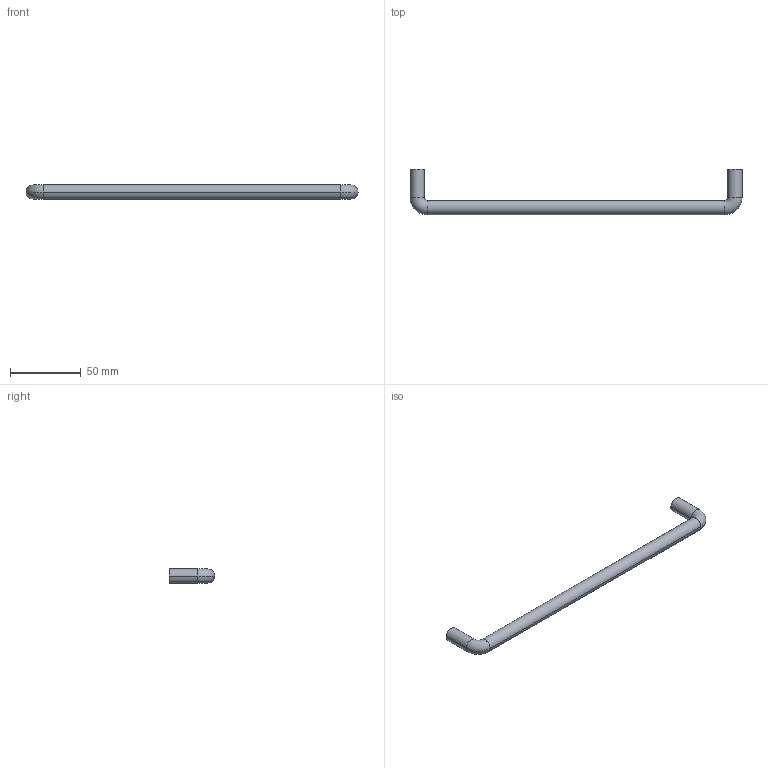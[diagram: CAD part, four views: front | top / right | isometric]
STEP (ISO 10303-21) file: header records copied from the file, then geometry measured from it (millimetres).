
FILE_DESCRIPTION( ( '' ), '1' );
FILE_NAME( 'C:/Documents and Settings/Sachin/Desktop/Sheet 10_1/stp/9069821.stp', '2013-10-22T08:17:01', ( '' ), ( '' ), ' ', ' ', ' ' );
FILE_SCHEMA( ( 'CONFIG_CONTROL_DESIGN' ) );
Length unit declared in the file: millimetre
Products named in the file (1): 1
Bounding box: 234 x 32 x 10 mm (x, y, z)
Volume: 21110.8 mm3; surface area: 8953.3 mm2
Topology: 1 solids, 1 shells, 18 faces, 34 edges, 20 vertices
Faces by surface type: cylinder 10, torus 4, plane 4
Entity records: 502 total; most frequent: DIRECTION 96, CARTESIAN_POINT 73, ORIENTED_EDGE 68, AXIS2_PLACEMENT_3D 43, EDGE_CURVE 34, CIRCLE 24, EDGE_LOOP 20, VERTEX_POINT 20
